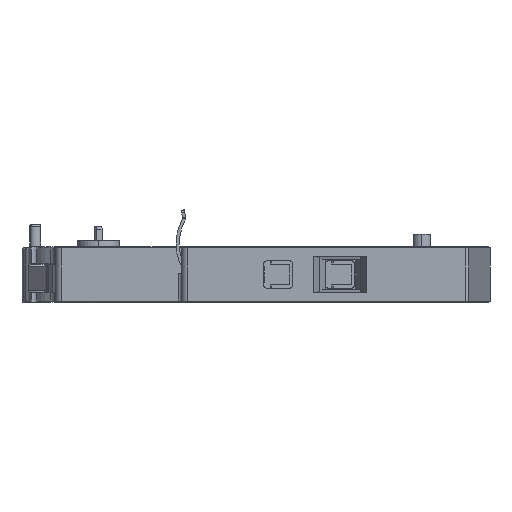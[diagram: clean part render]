
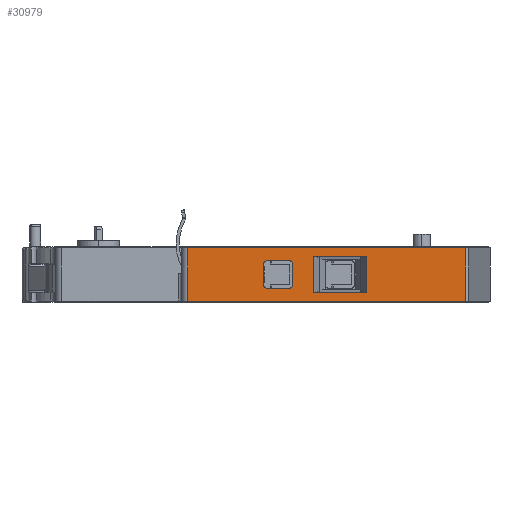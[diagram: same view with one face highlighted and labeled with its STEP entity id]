
A CAD part, left-side view. The second image highlights one B-rep face of the part: STEP entity #30979.
In plain terms, the highlighted planar face has unit normal (-1, 0, 0).
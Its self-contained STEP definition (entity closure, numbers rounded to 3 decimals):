
#2027 = CARTESIAN_POINT ( 'NONE',  ( -45., -30.025, 2.95 ) ) ;
#2029 = CARTESIAN_POINT ( 'NONE',  ( -45., -30.025, -2.95 ) ) ;
#2798 = DIRECTION ( 'NONE',  ( 0., 0., 1. ) ) ;
#2799 = VECTOR ( 'NONE', #2798, 1000. ) ;
#2800 = CARTESIAN_POINT ( 'NONE',  ( -45., -30.025, -16.698 ) ) ;
#2811 = LINE ( 'NONE', #2800, #2799 ) ;
#30686 = EDGE_CURVE ( 'NONE', #30753, #31020, #37071, .T. ) ;
#30709 = EDGE_CURVE ( 'NONE', #30728, #30746, #37066, .T. ) ;
#30710 = EDGE_LOOP ( 'NONE', ( #30711, #30712, #30713, #30714 ) ) ;
#30711 = ORIENTED_EDGE ( 'NONE', *, *, #30766, .T. ) ;
#30712 = ORIENTED_EDGE ( 'NONE', *, *, #30686, .T. ) ;
#30713 = ORIENTED_EDGE ( 'NONE', *, *, #31013, .T. ) ;
#30714 = ORIENTED_EDGE ( 'NONE', *, *, #32186, .F. ) ;
#30728 = VERTEX_POINT ( 'NONE', #37037 ) ;
#30729 = ORIENTED_EDGE ( 'NONE', *, *, #30730, .F. ) ;
#30730 = EDGE_CURVE ( 'NONE', #30731, #30996, #37109, .T. ) ;
#30731 = VERTEX_POINT ( 'NONE', #37104 ) ;
#30732 = ORIENTED_EDGE ( 'NONE', *, *, #30733, .F. ) ;
#30733 = EDGE_CURVE ( 'NONE', #30734, #30731, #37103, .T. ) ;
#30734 = VERTEX_POINT ( 'NONE', #37099 ) ;
#30735 = ORIENTED_EDGE ( 'NONE', *, *, #30736, .F. ) ;
#30736 = EDGE_CURVE ( 'NONE', #30737, #30734, #37098, .T. ) ;
#30737 = VERTEX_POINT ( 'NONE', #37093 ) ;
#30738 = ORIENTED_EDGE ( 'NONE', *, *, #30739, .F. ) ;
#30739 = EDGE_CURVE ( 'NONE', #30740, #30737, #37092, .T. ) ;
#30740 = VERTEX_POINT ( 'NONE', #37088 ) ;
#30741 = ORIENTED_EDGE ( 'NONE', *, *, #30743, .F. ) ;
#30742 = VERTEX_POINT ( 'NONE', #37087 ) ;
#30743 = EDGE_CURVE ( 'NONE', #30742, #30740, #37086, .T. ) ;
#30744 = ORIENTED_EDGE ( 'NONE', *, *, #30745, .F. ) ;
#30745 = EDGE_CURVE ( 'NONE', #30746, #30742, #37081, .T. ) ;
#30746 = VERTEX_POINT ( 'NONE', #37277 ) ;
#30747 = ORIENTED_EDGE ( 'NONE', *, *, #30709, .F. ) ;
#30753 = VERTEX_POINT ( 'NONE', #37362 ) ;
#30766 = EDGE_CURVE ( 'NONE', #32005, #30753, #37373, .T. ) ;
#30979 = ADVANCED_FACE ( 'NONE', ( #38086, #38085, #38084 ), #38005, .F. ) ;
#30980 = EDGE_LOOP ( 'NONE', ( #30981, #30985, #30988, #30991 ) ) ;
#30981 = ORIENTED_EDGE ( 'NONE', *, *, #30982, .T. ) ;
#30982 = EDGE_CURVE ( 'NONE', #30983, #30984, #38000, .T. ) ;
#30983 = VERTEX_POINT ( 'NONE', #38031 ) ;
#30984 = VERTEX_POINT ( 'NONE', #38030 ) ;
#30985 = ORIENTED_EDGE ( 'NONE', *, *, #30986, .T. ) ;
#30986 = EDGE_CURVE ( 'NONE', #30984, #30987, #38029, .T. ) ;
#30987 = VERTEX_POINT ( 'NONE', #38025 ) ;
#30988 = ORIENTED_EDGE ( 'NONE', *, *, #30990, .F. ) ;
#30989 = VERTEX_POINT ( 'NONE', #38024 ) ;
#30990 = EDGE_CURVE ( 'NONE', #30989, #30987, #38023, .T. ) ;
#30991 = ORIENTED_EDGE ( 'NONE', *, *, #30992, .T. ) ;
#30992 = EDGE_CURVE ( 'NONE', #30989, #30983, #38019, .T. ) ;
#30993 = EDGE_LOOP ( 'NONE', ( #30994, #30729, #30732, #30735, #30738, #30741, #30744, #30747 ) ) ;
#30994 = ORIENTED_EDGE ( 'NONE', *, *, #30995, .F. ) ;
#30995 = EDGE_CURVE ( 'NONE', #30996, #30728, #37955, .T. ) ;
#30996 = VERTEX_POINT ( 'NONE', #37951 ) ;
#31013 = EDGE_CURVE ( 'NONE', #31020, #32006, #37917, .T. ) ;
#31020 = VERTEX_POINT ( 'NONE', #38044 ) ;
#32005 = VERTEX_POINT ( 'NONE', #2029 ) ;
#32006 = VERTEX_POINT ( 'NONE', #2027 ) ;
#32186 = EDGE_CURVE ( 'NONE', #32005, #32006, #2811, .T. ) ;
#37037 = CARTESIAN_POINT ( 'NONE',  ( -45., -17.55, -2.2 ) ) ;
#37062 = DIRECTION ( 'NONE',  ( 0., -1., 0. ) ) ;
#37063 = DIRECTION ( 'NONE',  ( -1., 0., 0. ) ) ;
#37064 = CARTESIAN_POINT ( 'NONE',  ( -45., -17.55, -1.7 ) ) ;
#37065 = AXIS2_PLACEMENT_3D ( 'NONE', #37064, #37063, #37062 ) ;
#37066 = CIRCLE ( 'NONE', #37065, 0.5 ) ;
#37068 = DIRECTION ( 'NONE',  ( 0., 0., 1. ) ) ;
#37069 = VECTOR ( 'NONE', #37068, 1000. ) ;
#37070 = CARTESIAN_POINT ( 'NONE',  ( -45., -21.325, -16.698 ) ) ;
#37071 = LINE ( 'NONE', #37070, #37069 ) ;
#37079 = VECTOR ( 'NONE', #37313, 1000. ) ;
#37080 = CARTESIAN_POINT ( 'NONE',  ( -45., -18.05, -1.7 ) ) ;
#37081 = LINE ( 'NONE', #37080, #37079 ) ;
#37082 = DIRECTION ( 'NONE',  ( 0., -1., 0. ) ) ;
#37083 = DIRECTION ( 'NONE',  ( -1., 0., 0. ) ) ;
#37084 = CARTESIAN_POINT ( 'NONE',  ( -45., -17.55, 1.7 ) ) ;
#37085 = AXIS2_PLACEMENT_3D ( 'NONE', #37084, #37083, #37082 ) ;
#37086 = CIRCLE ( 'NONE', #37085, 0.5 ) ;
#37087 = CARTESIAN_POINT ( 'NONE',  ( -45., -18.05, 1.7 ) ) ;
#37088 = CARTESIAN_POINT ( 'NONE',  ( -45., -17.55, 2.2 ) ) ;
#37089 = DIRECTION ( 'NONE',  ( 0., 1., 0. ) ) ;
#37090 = VECTOR ( 'NONE', #37089, 1000. ) ;
#37091 = CARTESIAN_POINT ( 'NONE',  ( -45., -13.8, 2.2 ) ) ;
#37092 = LINE ( 'NONE', #37091, #37090 ) ;
#37093 = CARTESIAN_POINT ( 'NONE',  ( -45., -13.8, 2.2 ) ) ;
#37094 = DIRECTION ( 'NONE',  ( 0., 1., 0. ) ) ;
#37095 = DIRECTION ( 'NONE',  ( -1., 0., 0. ) ) ;
#37096 = CARTESIAN_POINT ( 'NONE',  ( -45., -13.8, 1.7 ) ) ;
#37097 = AXIS2_PLACEMENT_3D ( 'NONE', #37096, #37095, #37094 ) ;
#37098 = CIRCLE ( 'NONE', #37097, 0.5 ) ;
#37099 = CARTESIAN_POINT ( 'NONE',  ( -45., -13.3, 1.7 ) ) ;
#37100 = DIRECTION ( 'NONE',  ( 0., 0., -1. ) ) ;
#37101 = VECTOR ( 'NONE', #37100, 1000. ) ;
#37102 = CARTESIAN_POINT ( 'NONE',  ( -45., -13.3, -1.7 ) ) ;
#37103 = LINE ( 'NONE', #37102, #37101 ) ;
#37104 = CARTESIAN_POINT ( 'NONE',  ( -45., -13.3, -1.7 ) ) ;
#37105 = DIRECTION ( 'NONE',  ( 0., -1., 0. ) ) ;
#37106 = DIRECTION ( 'NONE',  ( -1., 0., 0. ) ) ;
#37107 = CARTESIAN_POINT ( 'NONE',  ( -45., -13.8, -1.7 ) ) ;
#37108 = AXIS2_PLACEMENT_3D ( 'NONE', #37107, #37106, #37105 ) ;
#37109 = CIRCLE ( 'NONE', #37108, 0.5 ) ;
#37277 = CARTESIAN_POINT ( 'NONE',  ( -45., -18.05, -1.7 ) ) ;
#37313 = DIRECTION ( 'NONE',  ( 0., 0., 1. ) ) ;
#37362 = CARTESIAN_POINT ( 'NONE',  ( -45., -21.325, -2.95 ) ) ;
#37370 = DIRECTION ( 'NONE',  ( 0., 1., 0. ) ) ;
#37371 = VECTOR ( 'NONE', #37370, 1000. ) ;
#37372 = CARTESIAN_POINT ( 'NONE',  ( -45., -21.325, -2.95 ) ) ;
#37373 = LINE ( 'NONE', #37372, #37371 ) ;
#37914 = DIRECTION ( 'NONE',  ( 0., -1., 0. ) ) ;
#37915 = VECTOR ( 'NONE', #37914, 1000. ) ;
#37916 = CARTESIAN_POINT ( 'NONE',  ( -45., -21.325, 2.95 ) ) ;
#37917 = LINE ( 'NONE', #37916, #37915 ) ;
#37951 = CARTESIAN_POINT ( 'NONE',  ( -45., -13.8, -2.2 ) ) ;
#37952 = DIRECTION ( 'NONE',  ( 0., -1., 0. ) ) ;
#37953 = VECTOR ( 'NONE', #37952, 1000. ) ;
#37954 = CARTESIAN_POINT ( 'NONE',  ( -45., -13.8, -2.2 ) ) ;
#37955 = LINE ( 'NONE', #37954, #37953 ) ;
#38000 = LINE ( 'NONE', #38034, #38033 ) ;
#38001 = DIRECTION ( 'NONE',  ( 0., 1., 0. ) ) ;
#38002 = DIRECTION ( 'NONE',  ( 1., 0., 0. ) ) ;
#38003 = CARTESIAN_POINT ( 'NONE',  ( -45., -107.693, 4.5 ) ) ;
#38004 = AXIS2_PLACEMENT_3D ( 'NONE', #38003, #38002, #38001 ) ;
#38005 = PLANE ( 'NONE',  #38004 ) ;
#38016 = DIRECTION ( 'NONE',  ( 0., 1., 0. ) ) ;
#38017 = VECTOR ( 'NONE', #38016, 1000. ) ;
#38018 = CARTESIAN_POINT ( 'NONE',  ( -45., -1., 4.3 ) ) ;
#38019 = LINE ( 'NONE', #38018, #38017 ) ;
#38020 = DIRECTION ( 'NONE',  ( 0., 0., -1. ) ) ;
#38021 = VECTOR ( 'NONE', #38020, 1000. ) ;
#38022 = CARTESIAN_POINT ( 'NONE',  ( -45., -46.072, 4.5 ) ) ;
#38023 = LINE ( 'NONE', #38022, #38021 ) ;
#38024 = CARTESIAN_POINT ( 'NONE',  ( -45., -46.072, 4.3 ) ) ;
#38025 = CARTESIAN_POINT ( 'NONE',  ( -45., -46.072, -4.3 ) ) ;
#38026 = DIRECTION ( 'NONE',  ( 0., -1., 0. ) ) ;
#38027 = VECTOR ( 'NONE', #38026, 1000. ) ;
#38028 = CARTESIAN_POINT ( 'NONE',  ( -45., -107.693, -4.3 ) ) ;
#38029 = LINE ( 'NONE', #38028, #38027 ) ;
#38030 = CARTESIAN_POINT ( 'NONE',  ( -45., -1., -4.3 ) ) ;
#38031 = CARTESIAN_POINT ( 'NONE',  ( -45., -1., 4.3 ) ) ;
#38032 = DIRECTION ( 'NONE',  ( 0., 0., -1. ) ) ;
#38033 = VECTOR ( 'NONE', #38032, 1000. ) ;
#38034 = CARTESIAN_POINT ( 'NONE',  ( -45., -1., 4.5 ) ) ;
#38044 = CARTESIAN_POINT ( 'NONE',  ( -45., -21.325, 2.95 ) ) ;
#38084 = FACE_BOUND ( 'NONE', #30710, .T. ) ;
#38085 = FACE_BOUND ( 'NONE', #30993, .T. ) ;
#38086 = FACE_OUTER_BOUND ( 'NONE', #30980, .T. ) ;
